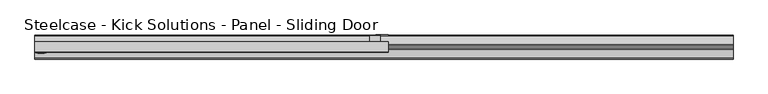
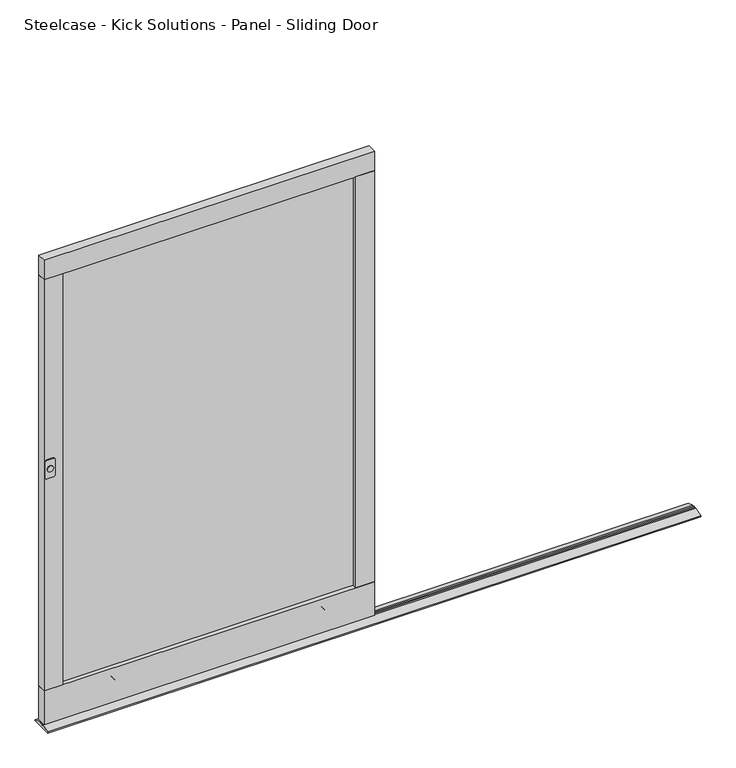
"""IFC4 building model written with IfcOpenShell, lengths in millimetres: furniture geometry, Steelcase - Kick Solutions - Panel - Sliding Door : 66H x 42W - Right Hand with Lock."""

from ifc_helpers import new_model, si_unit, point, frame, frame_2d, origin, place, context, project, spatial, polyline, circle_curve, trimmed, segment, composite_curve, outline, extrude, source, transform, mapped, element, save
from ifc_brep_helpers import plane_surface, cylinder_surface, advanced_brep


def steelcase_kick_solutions_panel_sliding_door_b4fe607f(model_context):
    return source(origin(), model_context, "Body", "SolidModel", [
        extrude(outline(composite_curve([segment(trimmed(circle_curve(frame_2d((927.2505008, 19.1322304)), 10.2804656), [point((937.5309664, 19.1322304))], [point((916.9700352, 19.1322304))], False, "CARTESIAN"), True, "CONTINUOUS"), segment(trimmed(circle_curve(frame_2d((927.2505008, 19.1322304)), 10.2804656), [point((916.9700352, 19.1322304))], [point((937.5309664, 19.1322304))], False, "CARTESIAN"), True, "CONTINUOUS")], self_intersect=False)), frame((0.0, -46.3394499, 0.0), z_axis=(0.0, 1.0, 0.0), x_axis=(0.0, 0.0, 1.0)), (0.0, 0.0, 1.0), 2.159),
        extrude(outline(composite_curve([segment(trimmed(circle_curve(frame_2d((954.4039028, 8.8899651)), 6.35), [point((960.7539028, 8.8899651))], [point((954.4039028, 2.5399651))], False, "CARTESIAN"), True, "CONTINUOUS"), segment(polyline([(954.4039028, 2.5399651), (899.7939028, 2.5399651)]), True, "CONTINUOUS"), segment(trimmed(circle_curve(frame_2d((899.7939028, 8.8899651)), 6.35), [point((899.7939028, 2.5399651))], [point((893.4439028, 8.8899651))], False, "CARTESIAN"), True, "CONTINUOUS"), segment(polyline([(893.4439028, 8.8899651), (893.4439028, 29.2099651)]), True, "CONTINUOUS"), segment(trimmed(circle_curve(frame_2d((899.7939028, 29.2099651)), 6.35), [point((893.4439028, 29.2099651))], [point((899.7939028, 35.5599651))], False, "CARTESIAN"), True, "CONTINUOUS"), segment(polyline([(899.7939028, 35.5599651), (954.4039028, 35.5599651)]), True, "CONTINUOUS"), segment(trimmed(circle_curve(frame_2d((954.4039028, 29.2099651)), 6.35), [point((954.4039028, 35.5599651))], [point((960.7539028, 29.2099651))], False, "CARTESIAN"), True, "CONTINUOUS"), segment(polyline([(960.7539028, 29.2099651), (960.7539028, 8.8899651)]), True, "CONTINUOUS")], self_intersect=False)), frame((0.0, -44.1804499, 0.0), z_axis=(0.0, 1.0, 0.0), x_axis=(0.0, 0.0, 1.0)), (0.0, 0.0, 1.0), 2.1118392),
        extrude(outline(composite_curve([segment(polyline([(942.3399783, 1079.3958938), (942.3399783, 1096.0915604)]), True, "CONTINUOUS"), segment(trimmed(circle_curve(frame_2d((933.6356449, 1096.0915604)), 8.7043334), [point((942.3399783, 1096.0915604))], [point((933.6356449, 1104.7958938))], True, "CARTESIAN"), True, "CONTINUOUS"), segment(polyline([(933.6356449, 1104.7958938), (911.9613141, 1104.7958938)]), True, "CONTINUOUS"), segment(trimmed(circle_curve(frame_2d((911.9613141, 1097.074558)), 7.7213358), [point((911.9613141, 1104.7958938))], [point((904.2399783, 1097.074558))], True, "CARTESIAN"), True, "CONTINUOUS"), segment(polyline([(904.2399783, 1097.074558), (904.2399783, 1079.3958938), (891.5399783, 1079.3958938), (891.5399783, 1095.8242308)]), True, "CONTINUOUS"), segment(trimmed(circle_curve(frame_2d((913.3157475, 1095.8242308)), 21.7757692), [point((891.5399783, 1095.8242308))], [point((913.3157475, 1117.6))], False, "CARTESIAN"), True, "CONTINUOUS"), segment(polyline([(913.3157475, 1117.6), (932.54852, 1117.6)]), True, "CONTINUOUS"), segment(trimmed(circle_curve(frame_2d((932.54852, 1095.1085417)), 22.4914583), [point((932.54852, 1117.6))], [point((955.0399783, 1095.1085417))], False, "CARTESIAN"), True, "CONTINUOUS"), segment(polyline([(955.0399783, 1095.1085417), (955.0399783, 1079.3958938), (942.3399783, 1079.3958938)]), True, "CONTINUOUS")], self_intersect=False)), frame((0.0, 9.7793101, 0.0), z_axis=(0.0, 1.0, 0.0), x_axis=(0.0, 0.0, 1.0)), (0.0, 0.0, 1.0), 2.1118397),
        extrude(outline(polyline([(1092.2634651, -10.3186092), (1059.2434651, -10.3186092), (1059.2434651, 9.7793101), (1092.2634651, 9.7793101), (1092.2634651, -10.3186092)])), frame((0.0, 0.0, 828.6739028), z_axis=(0.0, 0.0, 1.0), x_axis=(1.0, 0.0, 0.0)), (0.0, 0.0, 1.0), 196.85),
        advanced_brep(
        [(914.4000484, -18.7010906, 6.7959428), (914.4000484, -18.7010906, 108.3959428), (914.4000484, -18.7010906, 57.5959428), (914.4000484, -23.8703628, 6.7959428), (914.4000484, -23.8703628, 108.3959428), (914.4000484, -23.8703628, 57.5959428)],
        [
            (0, 1, circle_curve(frame((914.4000484, -18.7010906, 57.5959428), z_axis=(0.0, 1.0, 0.0), x_axis=(0.0, 0.0, 1.0)), 50.8)),
            (1, 2),
            (2, 0),
            (1, 0, circle_curve(frame((914.4000484, -18.7010906, 57.5959428), z_axis=(0.0, 1.0, 0.0), x_axis=(0.0, 0.0, 1.0)), 50.8)),
            (3, 4, circle_curve(frame((914.4000484, -23.8703628, 57.5959428), z_axis=(0.0, 1.0, 0.0), x_axis=(0.0, 0.0, 1.0)), 50.8)),
            (4, 1),
            (0, 3),
            (4, 3, circle_curve(frame((914.4000484, -23.8703628, 57.5959428), z_axis=(0.0, 1.0, 0.0), x_axis=(0.0, 0.0, 1.0)), 50.8)),
            (5, 4),
            (3, 5),
        ],
        [
            plane_surface(frame((914.4000484, -18.7010906, 57.5959428), z_axis=(0.0, 1.0, 0.0), x_axis=(0.0, 0.0, 1.0))),
            cylinder_surface(frame((914.4000484, -28.422537, 57.5959428), z_axis=(0.0, -1.0, 0.0), x_axis=(0.0, 0.0, 1.0)), 50.8),
            plane_surface(frame((914.4000484, -23.8703628, 57.5959428), z_axis=(0.0, -1.0, 0.0), x_axis=(0.0, 0.0, 1.0))),
        ],
        [
            (0, [[1, 2, 3]]),
            (0, [[4, -3, -2]]),
            (1, [[5, 6, -1, 7]]),
            (1, [[8, -7, -4, -6]]),
            (2, [[9, -5, 10]]),
            (2, [[-10, -8, -9]]),
        ],
    ),
        advanced_brep(
        [(914.4000484, -28.422537, 6.7959428), (914.4000484, -28.422537, 108.3959428), (914.4000484, -28.422537, 57.5959428), (914.4000484, -33.4459111, 6.7959428), (914.4000484, -33.4459111, 108.3959428), (914.4000484, -33.4459111, 57.5959428)],
        [
            (0, 1, circle_curve(frame((914.4000484, -28.422537, 57.5959428), z_axis=(0.0, 1.0, 0.0), x_axis=(0.0, 0.0, 1.0)), 50.8)),
            (1, 2),
            (2, 0),
            (1, 0, circle_curve(frame((914.4000484, -28.422537, 57.5959428), z_axis=(0.0, 1.0, 0.0), x_axis=(0.0, 0.0, 1.0)), 50.8)),
            (3, 4, circle_curve(frame((914.4000484, -33.4459111, 57.5959428), z_axis=(0.0, 1.0, 0.0), x_axis=(0.0, 0.0, 1.0)), 50.8)),
            (4, 1),
            (0, 3),
            (4, 3, circle_curve(frame((914.4000484, -33.4459111, 57.5959428), z_axis=(0.0, 1.0, 0.0), x_axis=(0.0, 0.0, 1.0)), 50.8)),
            (5, 4),
            (3, 5),
        ],
        [
            plane_surface(frame((914.4000484, -28.422537, 57.5959428), z_axis=(0.0, 1.0, 0.0), x_axis=(0.0, 0.0, 1.0))),
            cylinder_surface(frame((914.4000484, -28.422537, 57.5959428), z_axis=(0.0, -1.0, 0.0), x_axis=(0.0, 0.0, 1.0)), 50.8),
            plane_surface(frame((914.4000484, -33.4459111, 57.5959428), z_axis=(0.0, -1.0, 0.0), x_axis=(0.0, 0.0, 1.0))),
        ],
        [
            (0, [[1, 2, 3]]),
            (0, [[4, -3, -2]]),
            (1, [[5, 6, -1, 7]]),
            (1, [[8, -7, -4, -6]]),
            (2, [[9, -5, 10]]),
            (2, [[-10, -8, -9]]),
        ],
    ),
        advanced_brep(
        [(203.2000484, -18.7010906, 6.7959428), (203.2000484, -18.7010906, 108.3959428), (203.2000484, -18.7010906, 57.5959428), (203.2000484, -23.8703628, 6.7959428), (203.2000484, -23.8703628, 108.3959428), (203.2000484, -23.8703628, 57.5959428)],
        [
            (0, 1, circle_curve(frame((203.2000484, -18.7010906, 57.5959428), z_axis=(0.0, 1.0, 0.0), x_axis=(0.0, 0.0, 1.0)), 50.8)),
            (1, 2),
            (2, 0),
            (1, 0, circle_curve(frame((203.2000484, -18.7010906, 57.5959428), z_axis=(0.0, 1.0, 0.0), x_axis=(0.0, 0.0, 1.0)), 50.8)),
            (3, 4, circle_curve(frame((203.2000484, -23.8703628, 57.5959428), z_axis=(0.0, 1.0, 0.0), x_axis=(0.0, 0.0, 1.0)), 50.8)),
            (4, 1),
            (0, 3),
            (4, 3, circle_curve(frame((203.2000484, -23.8703628, 57.5959428), z_axis=(0.0, 1.0, 0.0), x_axis=(0.0, 0.0, 1.0)), 50.8)),
            (5, 4),
            (3, 5),
        ],
        [
            plane_surface(frame((203.2000484, -18.7010906, 57.5959428), z_axis=(0.0, 1.0, 0.0), x_axis=(0.0, 0.0, 1.0))),
            cylinder_surface(frame((203.2000484, -28.422537, 57.5959428), z_axis=(0.0, -1.0, 0.0), x_axis=(0.0, 0.0, 1.0)), 50.8),
            plane_surface(frame((203.2000484, -23.8703628, 57.5959428), z_axis=(0.0, -1.0, 0.0), x_axis=(0.0, 0.0, 1.0))),
        ],
        [
            (0, [[1, 2, 3]]),
            (0, [[4, -3, -2]]),
            (1, [[5, 6, -1, 7]]),
            (1, [[8, -7, -4, -6]]),
            (2, [[9, -5, 10]]),
            (2, [[-10, -8, -9]]),
        ],
    ),
        advanced_brep(
        [(203.2000484, -28.422537, 6.7959428), (203.2000484, -28.422537, 108.3959428), (203.2000484, -28.422537, 57.5959428), (203.2000484, -33.4459111, 6.7959428), (203.2000484, -33.4459111, 108.3959428), (203.2000484, -33.4459111, 57.5959428)],
        [
            (0, 1, circle_curve(frame((203.2000484, -28.422537, 57.5959428), z_axis=(0.0, 1.0, 0.0), x_axis=(0.0, 0.0, 1.0)), 50.8)),
            (1, 2),
            (2, 0),
            (1, 0, circle_curve(frame((203.2000484, -28.422537, 57.5959428), z_axis=(0.0, 1.0, 0.0), x_axis=(0.0, 0.0, 1.0)), 50.8)),
            (3, 4, circle_curve(frame((203.2000484, -33.4459111, 57.5959428), z_axis=(0.0, 1.0, 0.0), x_axis=(0.0, 0.0, 1.0)), 50.8)),
            (4, 1),
            (0, 3),
            (4, 3, circle_curve(frame((203.2000484, -33.4459111, 57.5959428), z_axis=(0.0, 1.0, 0.0), x_axis=(0.0, 0.0, 1.0)), 50.8)),
            (5, 4),
            (3, 5),
        ],
        [
            plane_surface(frame((203.2000484, -28.422537, 57.5959428), z_axis=(0.0, 1.0, 0.0), x_axis=(0.0, 0.0, 1.0))),
            cylinder_surface(frame((203.2000484, -28.422537, 57.5959428), z_axis=(0.0, -1.0, 0.0), x_axis=(0.0, 0.0, 1.0)), 50.8),
            plane_surface(frame((203.2000484, -33.4459111, 57.5959428), z_axis=(0.0, -1.0, 0.0), x_axis=(0.0, 0.0, 1.0))),
        ],
        [
            (0, [[1, 2, 3]]),
            (0, [[4, -3, -2]]),
            (1, [[5, 6, -1, 7]]),
            (1, [[8, -7, -4, -6]]),
            (2, [[9, -5, 10]]),
            (2, [[-10, -8, -9]]),
        ],
    ),
        extrude(outline(polyline([(63.5000484, -42.0686107), (0.0, -42.0686107), (0.0, -10.3186092), (63.5000484, -10.3186092), (63.5000484, -42.0686107)])), frame((0.0, 0.0, 137.1589063), z_axis=(0.0, 0.0, 1.0), x_axis=(1.0, 0.0, 0.0)), (0.0, 0.0, 1.0), 1469.3911421),
        extrude(outline(polyline([(1117.6, -42.0686107), (1054.1000484, -42.0686107), (1054.1000484, -10.3186092), (1117.6, -10.3186092), (1117.6, -42.0686107)])), frame((0.0, 0.0, 137.1589063), z_axis=(0.0, 0.0, 1.0), x_axis=(1.0, 0.0, 0.0)), (0.0, 0.0, 1.0), 1469.3911421),
        extrude(outline(polyline([(-24.2505784, 6.2879429), (-17.9005799, 6.2879429), (-17.9005799, 12.2490843), (10.0049365, 3.0138476), (11.9383101, 0.0), (-64.2312094, 0.0), (-62.2978359, 3.0138476), (-34.3923194, 12.2490843), (-34.3923194, 6.2879429), (-28.042321, 6.2879429), (-28.042321, 12.6379425), (-24.2505784, 12.6379425), (-24.2505784, 6.2879429)])), frame((0.0, 0.0, 0.0), z_axis=(1.0, 0.0, 0.0), x_axis=(0.0, 1.0, 0.0)), (0.0, 0.0, 1.0), 2209.8),
        extrude(outline(polyline([(1117.6, -10.3186092), (1117.6, -42.0686107), (0.0, -42.0686107), (0.0, -10.3186092), (1117.6, -10.3186092)])), frame((0.0, 0.0, 16.5089033), z_axis=(0.0, 0.0, 1.0), x_axis=(1.0, 0.0, 0.0)), (0.0, 0.0, 1.0), 120.650003),
        extrude(outline(polyline([(1117.6, -10.3186092), (1117.6, -42.0686107), (0.0, -42.0686107), (0.0, -10.3186092), (1117.6, -10.3186092)])), frame((0.0, 0.0, 1606.5500484), z_axis=(0.0, 0.0, 1.0), x_axis=(1.0, 0.0, 0.0)), (0.0, 0.0, 1.0), 69.8499516),
        extrude(outline(polyline([(1054.1000484, -27.6369762), (63.5000484, -27.6369762), (63.5000484, -24.6559232), (1054.1000484, -24.6559232), (1054.1000484, -27.6369762)])), frame((0.0, 0.0, 137.1589063), z_axis=(0.0, 0.0, 1.0), x_axis=(1.0, 0.0, 0.0)), (0.0, 0.0, 1.0), 1469.3911421),
    ])


if __name__ == "__main__":
    model = new_model("IFC4")
    model_context = context("Model", 3, world=origin())
    ifc_project = project(units=[si_unit("LENGTHUNIT", "METRE", prefix="MILLI")], contexts=[model_context])
    site = spatial("IfcSite", under=ifc_project)
    building = spatial("IfcBuilding", under=site)
    placement = place(None, origin())
    steelcase_kick_solutions_panel_sliding_door_shape = steelcase_kick_solutions_panel_sliding_door_b4fe607f(model_context)
    element("IfcFurniture", 1, ObjectType="Steelcase - Kick Solutions - Panel - Sliding Door : 66H x 42W - Right Hand with Lock", at=placement, inside=building, context=model_context, shape_type="MappedRepresentation", body=[
        mapped(steelcase_kick_solutions_panel_sliding_door_shape, transform((0.0, 0.0, 0.0), x_axis=(1.0, 0.0, 0.0), y_axis=(0.0, 1.0, 0.0), z_axis=(0.0, 0.0, 1.0))),
    ])
    save(model, "model.ifc")
